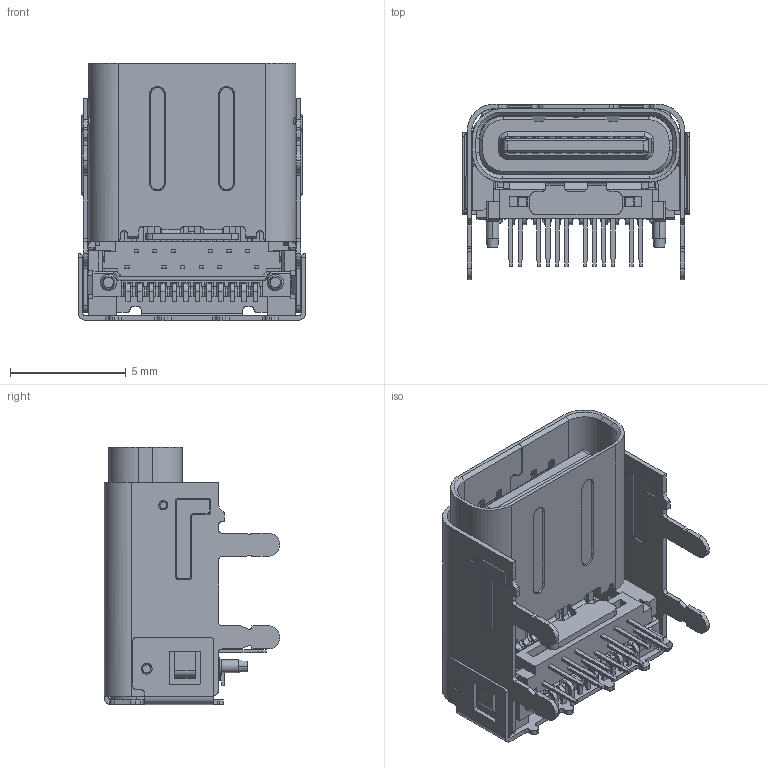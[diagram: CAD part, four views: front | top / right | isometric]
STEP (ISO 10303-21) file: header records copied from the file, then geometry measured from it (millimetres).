
FILE_DESCRIPTION (( 'STEP AP203' ), '1' );
FILE_NAME ('U5261-24PN3.4H11.1L.STEP', '2026-09-22T02:04:22', ( '' ), ( '' ), 'SwSTEP 2.0', 'SolidWorks 2024', '' );
FILE_SCHEMA (( 'CONFIG_CONTROL_DESIGN' ));
Length unit declared in the file: millimetre
Products named in the file (4): U5261-24PN3.4H11.1L; OUT_SHELL.2; 带点DIP-09-05.stp; U5261-24PN3.4H11.1L(2)
Assembly tree (3 placements, depth 4):
  U5261-24PN3.4H11.1L
    U5261-24PN3.4H11.1L(2)
      带点DIP-09-05.stp
        OUT_SHELL.2
Bounding box: 9.84 x 7.58 x 11.1 mm (x, y, z)
Surface area: 1273.1 mm2 (no closed solid volume)
Topology: 0 solids, 34 shells, 2728 faces, 8225 edges, 5372 vertices
Faces by surface type: plane 1965, cylinder 671, torus 56, cone 28, bspline 8
Entity records: 101281 total; most frequent: CARTESIAN_POINT 43380, ORIENTED_EDGE 16274, EDGE_CURVE 8225, B_SPLINE_CURVE_WITH_KNOTS 8189, DIRECTION 5492, VERTEX_POINT 5372, EDGE_LOOP 2831, FACE_OUTER_BOUND 2728
